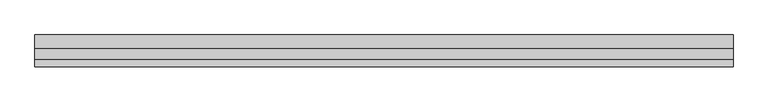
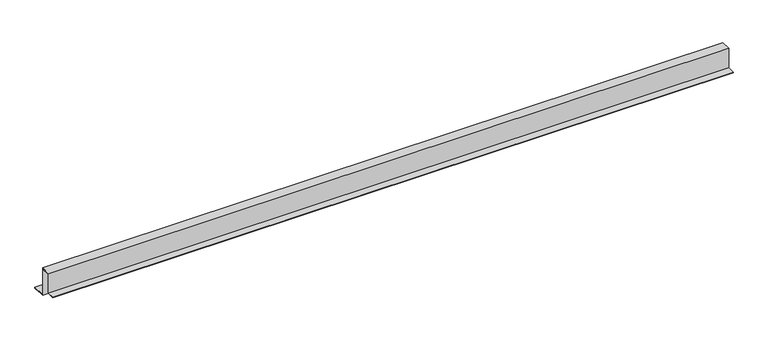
"""IFC4 building model written with IfcOpenShell, lengths in millimetres: proxy geometry, АК7_1 бок Обрамление оконного_дверного проема : АК7_1 бок Обрамление оконного_дверного проема."""

from ifc_helpers import new_model, si_unit, frame, origin, place, context, project, spatial, polyline, outline, extrude, source, transform, mapped, element, save


def generic_models_e6ec2b4e(model_context):
    return source(origin(), model_context, "Body", "SweptSolid", [
        extrude(outline(polyline([(12.5, 25.0), (42.5, 25.0), (42.5, 22.0), (27.5, 22.0), (27.5, 23.0), (41.5, 23.0), (41.5, 24.0), (13.5, 24.0), (13.5, -36.9999552), (-10.5, -36.9999552), (-10.5, -35.9999552), (12.5, -35.9999552), (12.5, 25.0)])), frame((0.0, 0.0, 0.0), z_axis=(1.0, 0.0, 0.0), x_axis=(0.0, 1.0, 0.0)), (0.0, 0.0, 1.0), 2024.9885759),
        extrude(outline(polyline([(42.5, -60.0), (82.5, -60.0), (82.5, -63.0), (62.5, -63.0), (62.5, -62.0), (81.5, -62.0), (81.5, -61.0), (41.5, -61.0), (41.5, 21.0), (17.5, 21.0), (17.5, 22.0), (42.5, 22.0), (42.5, -60.0)])), frame((0.0, 0.0, 0.0), z_axis=(1.0, 0.0, 0.0), x_axis=(0.0, 1.0, 0.0)), (0.0, 0.0, 1.0), 2024.9885759),
    ])


if __name__ == "__main__":
    model = new_model("IFC4")
    model_context = context("Model", 3, world=origin())
    ifc_project = project(units=[si_unit("LENGTHUNIT", "METRE", prefix="MILLI")], contexts=[model_context])
    site = spatial("IfcSite", under=ifc_project)
    building = spatial("IfcBuilding", under=site)
    placement = place(None, origin())
    generic_models_shape = generic_models_e6ec2b4e(model_context)
    element("IfcBuildingElementProxy", 1, Name="АК7_1 бок Обрамление оконного_дверного проема : АК7_1 бок Обрамление оконного_дверного проема", ObjectType="АК7_1 бок Обрамление оконного_дверного проема : АК7_1 бок Обрамление оконного_дверного проема", at=placement, inside=building, context=model_context, shape_type="MappedRepresentation", body=[
        mapped(generic_models_shape, transform((0.0, 0.0, 0.0), x_axis=(1.0, 0.0, 0.0), y_axis=(0.0, 1.0, 0.0), z_axis=(0.0, 0.0, 1.0))),
    ])
    save(model, "model.ifc")
